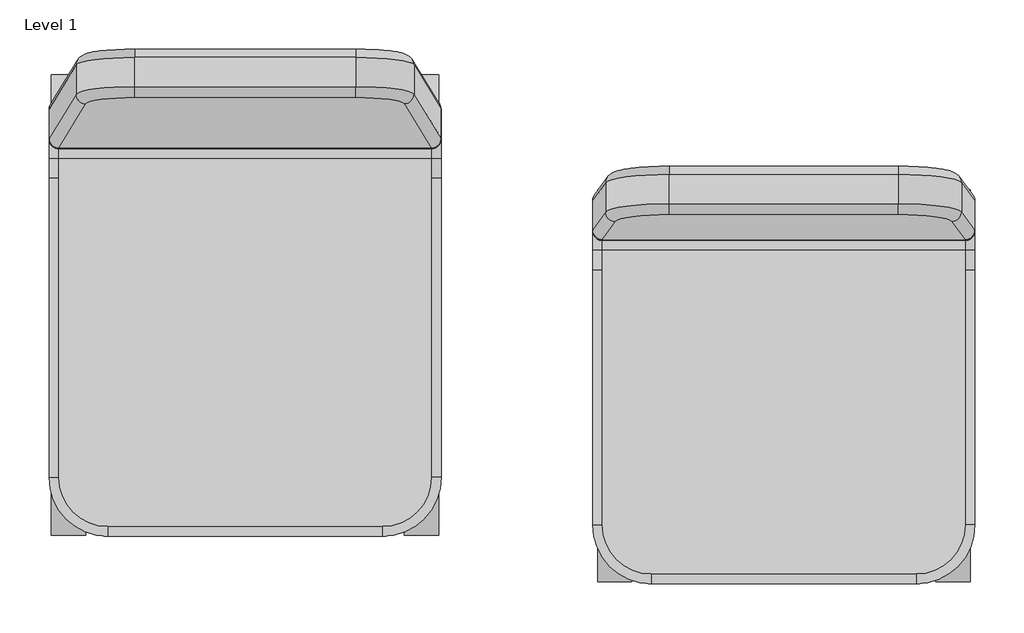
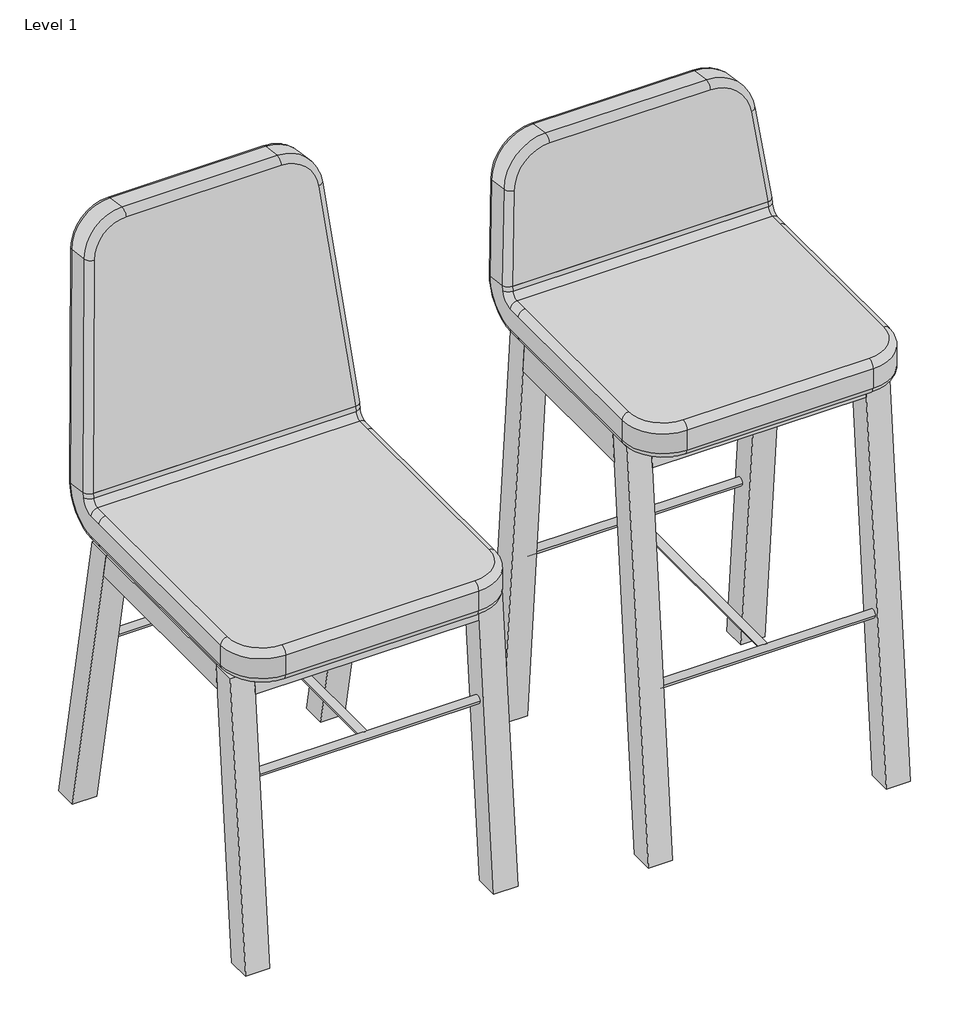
# One storey, incomplete: 2 furniture elements.
"""IFC4 building model written with IfcOpenShell, lengths in millimetres."""

from ifc_helpers import new_model, si_unit, origin, place, context, project, spatial, transform, mapped, element, save
from components import furniture_b58ee545, furniture_0df47b9a

model = new_model("IFC4")

# Units and contexts
model_context = context("Model", 3, world=origin())
ifc_project = project(units=[si_unit("LENGTHUNIT", "METRE", prefix="MILLI")], contexts=[model_context])

# Site, building, storey
site = spatial("IfcSite", under=ifc_project)
building = spatial("IfcBuilding", under=site)
storey = spatial("IfcBuildingStorey", under=building, Name="Level 1", Elevation=0.0)

# Furniture
placement = place(None, origin())
furniture_shape = furniture_b58ee545(model_context)
element("IfcFurniture", 1, ObjectType="A Slim+back rest_H865-SH463 : A Slim+back rest_H865-SH463", at=placement, inside=storey, context=model_context, shape_type="MappedRepresentation", body=[
    mapped(furniture_shape, transform((-7382.7403402, 40.5556813, 0.0), x_axis=(1.0, 0.0, 0.0), y_axis=(0.0, 1.0, 0.0), z_axis=(0.0, 0.0, 1.0))),
])
furniture_2_shape = furniture_0df47b9a(model_context)
element("IfcFurniture", 2, ObjectType="A Slim+back rest_H865-SH663 : A Slim+back rest_H865-SH663", at=placement, inside=storey, context=model_context, shape_type="MappedRepresentation", body=[
    mapped(furniture_2_shape, transform((-6833.211723, -27.938767, 0.0), x_axis=(1.0, 0.0, 0.0), y_axis=(0.0, 1.0, 0.0), z_axis=(0.0, 0.0, 1.0))),
])

save(model, "model.ifc")
